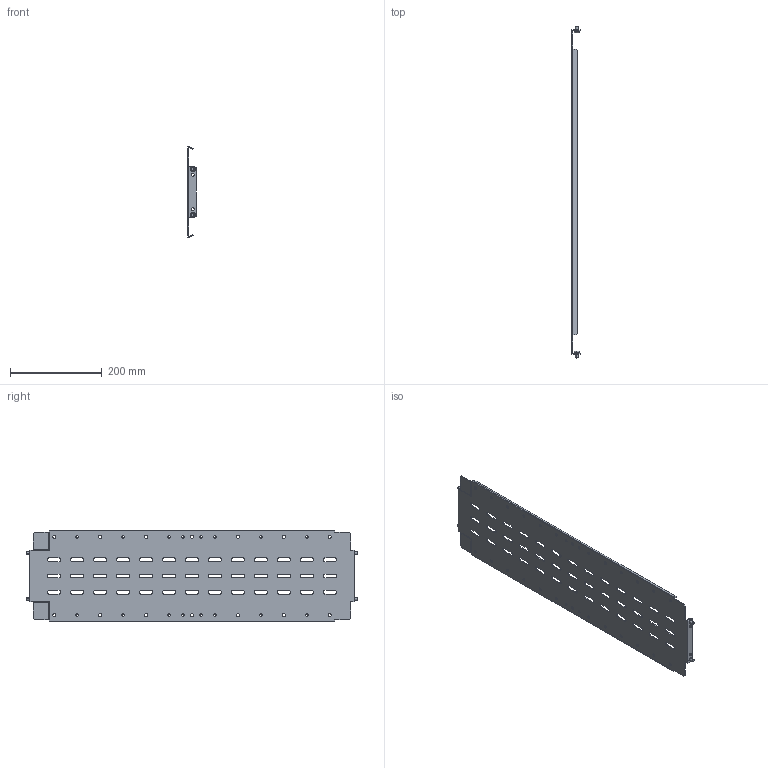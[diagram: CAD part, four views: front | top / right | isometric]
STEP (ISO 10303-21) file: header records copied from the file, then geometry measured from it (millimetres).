
FILE_DESCRIPTION (( 'STEP AP214' ), '1' );
FILE_NAME ('FO-00-SWV-020-080 Ïåðåãîðîäêà ñåêöèîíèðîâàíèÿ âåðòèêàëüíàÿ 200õ800 ìì.STEP', '2025-08-11T10:26:26', ( '' ), ( '' ), 'SwSTEP 2.0', 'SolidWorks 2023', '' );
FILE_SCHEMA (( 'AUTOMOTIVE_DESIGN' ));
Length unit declared in the file: millimetre
Products named in the file (1): FO-00-SWV-020-080 Перегородка секционирования вертикальная 200х800 мм
Bounding box: 17.5 x 722.5 x 198.93 mm (x, y, z)
Volume: 220362.7 mm3; surface area: 300724 mm2
Topology: 1 solids, 1 shells, 384 faces, 1074 edges, 708 vertices
Faces by surface type: plane 190, cylinder 170, torus 16, cone 8
Entity records: 12757 total; most frequent: DIRECTION 2224, CARTESIAN_POINT 2167, ORIENTED_EDGE 2148, EDGE_CURVE 1074, AXIS2_PLACEMENT_3D 765, VERTEX_POINT 708, LINE 694, VECTOR 694
